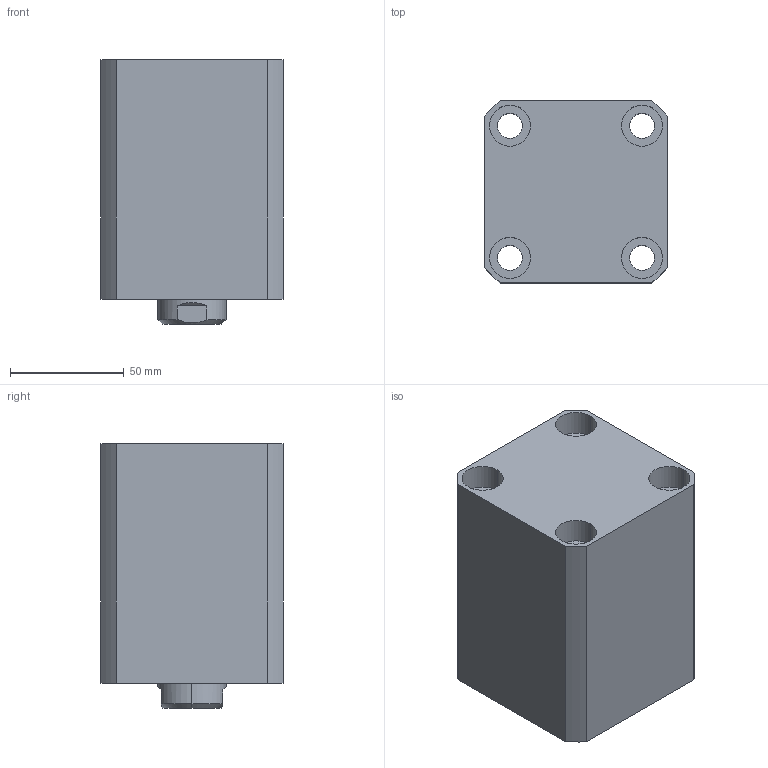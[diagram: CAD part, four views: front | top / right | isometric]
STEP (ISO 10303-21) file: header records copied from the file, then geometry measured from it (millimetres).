
FILE_DESCRIPTION (( 'STEP AP203' ), '1' );
FILE_NAME ('CHTB-SD50-45N.STEP', '2018-05-18T12:36:25', ( '' ), ( '' ), 'SwSTEP 2.0', 'SolidWorks 2015', '' );
FILE_SCHEMA (( 'CONFIG_CONTROL_DESIGN' ));
Length unit declared in the file: millimetre
Products named in the file (4): CHTB-SD50-45N; 掛极SD50-45N; 活塞杆SD50-45N; CHTM-SD50QG
Assembly tree (3 placements, depth 2):
  CHTB-SD50-45N
    掛极SD50-45N
    活塞杆SD50-45N
    CHTM-SD50QG
Bounding box: 80 x 80 x 116 mm (x, y, z)
Volume: 544485.9 mm3; surface area: 109575.4 mm2
Topology: 3 solids, 3 shells, 194 faces, 499 edges, 330 vertices
Faces by surface type: cylinder 104, plane 39, cone 21, torus 16, bspline 14
Entity records: 10789 total; most frequent: CARTESIAN_POINT 5840, ORIENTED_EDGE 986, DIRECTION 914, EDGE_CURVE 493, AXIS2_PLACEMENT_3D 383, VERTEX_POINT 330, EDGE_LOOP 233, CIRCLE 197
